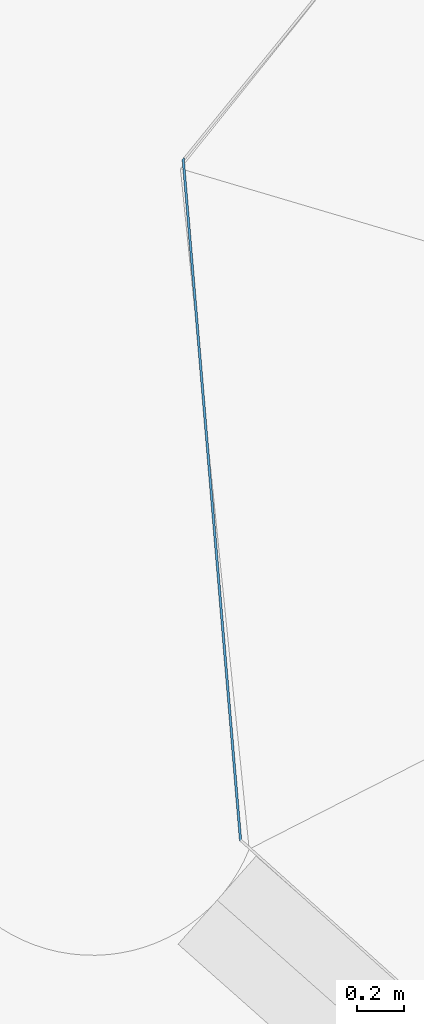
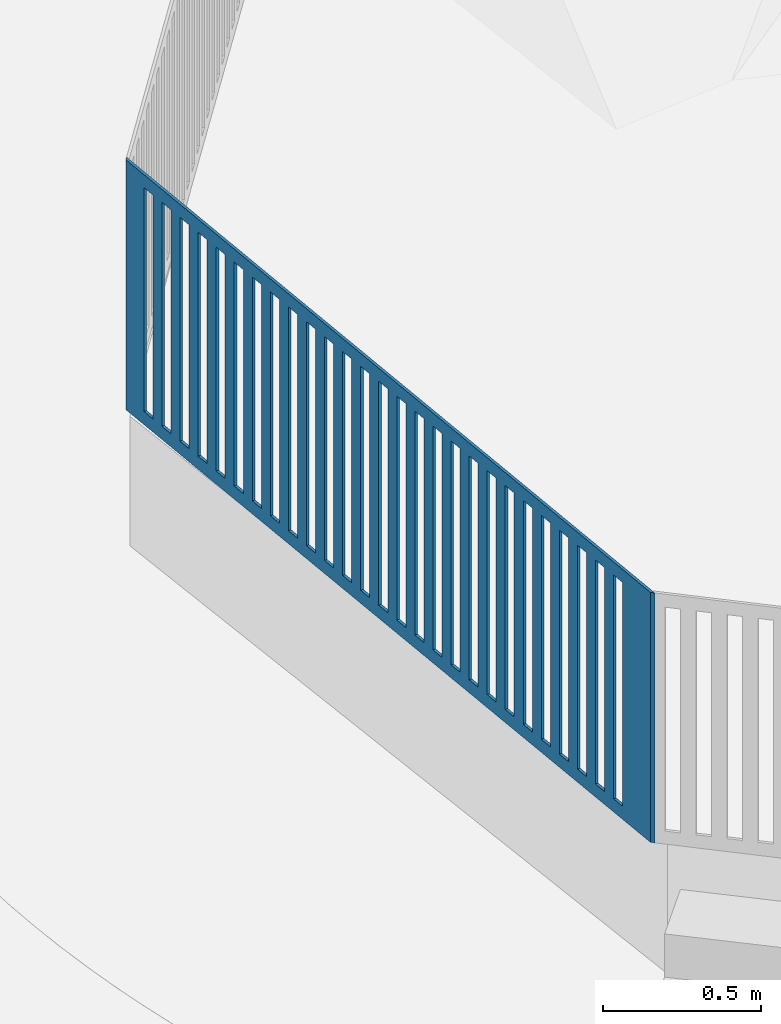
# One storey, part 28 of 75: 1 wall, 27 openings.
"""IFC2X3 building model written with IfcOpenShell, lengths in metres."""

from ifc_helpers import new_model, entity, si_unit, converted_unit, derived_unit, direction, frame, frame_2d, origin, place, context, subcontext, project, spatial, polyline, rectangle, outline, extrude, material, layer, layer_set, layer_usage, type_object, element, save


model = new_model("IFC2X3")

# Units and contexts
model_context = context("Model", 3, precision=1e-05, world=origin(), true_north=direction((6.123031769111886e-17, 1.0)))
body_context = subcontext(model_context, "Body", "Model", "MODEL_VIEW")
ifc_project = project(units=[si_unit("LENGTHUNIT", "METRE"), si_unit("AREAUNIT", "SQUARE_METRE"), si_unit("VOLUMEUNIT", "CUBIC_METRE"), converted_unit("PLANEANGLEUNIT", "DEGREE", entity("IfcRatioMeasure", 0.017453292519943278), si_unit("PLANEANGLEUNIT", "RADIAN"), dimensions=[0, 0, 0, 0, 0, 0, 0]), si_unit("MASSUNIT", "GRAM", prefix="KILO"), derived_unit("MASSDENSITYUNIT", [(si_unit("MASSUNIT", "GRAM", prefix="KILO"), 1), (si_unit("LENGTHUNIT", "METRE"), -3)]), derived_unit("IONCONCENTRATIONUNIT", [(si_unit("MASSUNIT", "GRAM", prefix="KILO"), 1), (si_unit("LENGTHUNIT", "METRE"), -3)]), derived_unit("MOMENTOFINERTIAUNIT", [(si_unit("LENGTHUNIT", "METRE"), 4)]), si_unit("TIMEUNIT", "SECOND"), si_unit("FREQUENCYUNIT", "HERTZ"), si_unit("THERMODYNAMICTEMPERATUREUNIT", "DEGREE_CELSIUS"), derived_unit("THERMALTRANSMITTANCEUNIT", [(si_unit("MASSUNIT", "GRAM", prefix="KILO"), 1), (si_unit("THERMODYNAMICTEMPERATUREUNIT", "KELVIN"), -1), (si_unit("TIMEUNIT", "SECOND"), -3)]), derived_unit("THERMALCONDUCTANCEUNIT", [(si_unit("MASSUNIT", "GRAM", prefix="KILO"), 1), (si_unit("THERMODYNAMICTEMPERATUREUNIT", "KELVIN"), -1), (si_unit("TIMEUNIT", "SECOND"), -3), (si_unit("LENGTHUNIT", "METRE"), 1)]), derived_unit("VOLUMETRICFLOWRATEUNIT", [(si_unit("LENGTHUNIT", "METRE"), 3), (si_unit("TIMEUNIT", "SECOND"), -1)]), derived_unit("MASSFLOWRATEUNIT", [(si_unit("MASSUNIT", "GRAM", prefix="KILO"), 1), (si_unit("TIMEUNIT", "SECOND"), -1)]), derived_unit("ROTATIONALFREQUENCYUNIT", [(si_unit("TIMEUNIT", "SECOND"), -1)]), si_unit("ELECTRICCURRENTUNIT", "AMPERE"), si_unit("ELECTRICVOLTAGEUNIT", "VOLT"), si_unit("POWERUNIT", "WATT"), si_unit("FORCEUNIT", "NEWTON", prefix="KILO"), si_unit("ILLUMINANCEUNIT", "LUX"), si_unit("LUMINOUSFLUXUNIT", "LUMEN"), si_unit("LUMINOUSINTENSITYUNIT", "CANDELA"), derived_unit("USERDEFINED", [(si_unit("MASSUNIT", "GRAM", prefix="KILO"), -1), (si_unit("LENGTHUNIT", "METRE"), -2), (si_unit("TIMEUNIT", "SECOND"), 3), (si_unit("LUMINOUSFLUXUNIT", "LUMEN"), 1)]), derived_unit("USERDEFINED", [(si_unit("MASSUNIT", "GRAM", prefix="KILO"), 1), (si_unit("TIMEUNIT", "SECOND"), -3), (si_unit("LENGTHUNIT", "METRE"), 3), (si_unit("ELECTRICCURRENTUNIT", "AMPERE"), -2)]), derived_unit("SOUNDPOWERUNIT", [(si_unit("MASSUNIT", "GRAM", prefix="KILO"), 1), (si_unit("TIMEUNIT", "SECOND"), -3), (si_unit("LENGTHUNIT", "METRE"), 2)]), derived_unit("SOUNDPRESSUREUNIT", [(si_unit("MASSUNIT", "GRAM", prefix="KILO"), 1), (si_unit("LENGTHUNIT", "METRE"), -1), (si_unit("TIMEUNIT", "SECOND"), -2)]), derived_unit("LINEARVELOCITYUNIT", [(si_unit("LENGTHUNIT", "METRE"), 1), (si_unit("TIMEUNIT", "SECOND"), -1)]), si_unit("PRESSUREUNIT", "PASCAL"), derived_unit("USERDEFINED", [(si_unit("MASSUNIT", "GRAM", prefix="KILO"), 1), (si_unit("LENGTHUNIT", "METRE"), -2), (si_unit("TIMEUNIT", "SECOND"), -2)]), derived_unit("LINEARFORCEUNIT", [(si_unit("MASSUNIT", "GRAM", prefix="KILO"), 1), (si_unit("TIMEUNIT", "SECOND"), -2)]), derived_unit("PLANARFORCEUNIT", [(si_unit("MASSUNIT", "GRAM", prefix="KILO"), 1), (si_unit("LENGTHUNIT", "METRE"), -1), (si_unit("TIMEUNIT", "SECOND"), -2)]), derived_unit("SPECIFICHEATCAPACITYUNIT", [(si_unit("THERMODYNAMICTEMPERATUREUNIT", "KELVIN"), -1), (si_unit("LENGTHUNIT", "METRE"), 2), (si_unit("TIMEUNIT", "SECOND"), -2)]), derived_unit("HEATINGVALUEUNIT", [(si_unit("LENGTHUNIT", "METRE"), 2), (si_unit("TIMEUNIT", "SECOND"), -2)]), derived_unit("VAPORPERMEABILITYUNIT", [(si_unit("LENGTHUNIT", "METRE"), -1), (si_unit("TIMEUNIT", "SECOND"), 1)]), derived_unit("DYNAMICVISCOSITYUNIT", [(si_unit("MASSUNIT", "GRAM", prefix="KILO"), 1), (si_unit("TIMEUNIT", "SECOND"), -1), (si_unit("LENGTHUNIT", "METRE"), -1)]), derived_unit("THERMALEXPANSIONCOEFFICIENTUNIT", [(si_unit("THERMODYNAMICTEMPERATUREUNIT", "KELVIN"), -1)]), derived_unit("MODULUSOFELASTICITYUNIT", [(si_unit("MASSUNIT", "GRAM", prefix="KILO"), 1), (si_unit("LENGTHUNIT", "METRE"), -1), (si_unit("TIMEUNIT", "SECOND"), -2)]), derived_unit("ISOTHERMALMOISTURECAPACITYUNIT", [(si_unit("LENGTHUNIT", "METRE"), 3), (si_unit("MASSUNIT", "GRAM", prefix="KILO"), -1)]), derived_unit("MOISTUREDIFFUSIVITYUNIT", [(si_unit("TIMEUNIT", "SECOND"), -1), (si_unit("LENGTHUNIT", "METRE"), 2)])], contexts=[model_context])

# Site, building, storey
site_placement = place(None, origin())
site = spatial("IfcSite", under=ifc_project, at=site_placement, Name="Default", CompositionType="ELEMENT")
building_placement = place(site_placement, origin())
building = spatial("IfcBuilding", under=site, at=building_placement, Name="Projeto", CompositionType="ELEMENT")
storey_placement = place(building_placement, origin())
storey = spatial("IfcBuildingStorey", under=building, at=storey_placement, Name="Nível 1", CompositionType="ELEMENT", Elevation=0.0)

# Wall, openings
ifc_material = material(Name=".ARQ.PIS - CONTRAPISO.ARMADO")
ifc_layer = layer(ifc_material, 0.01)
ifc_layer_set = layer_set([ifc_layer], Name="Parede básica:15cm 2")
ifc_layer_usage = layer_usage(ifc_layer_set, "AXIS2", "POSITIVE", -0.005000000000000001)
wall_type = type_object("IfcWallType", Name="Parede básica:15cm 2", PredefinedType="STANDARD", material=ifc_layer_set)
wall_placement = place(storey_placement, frame((16.577661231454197, 32.810163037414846, -2.1), z_axis=(0.0, 0.0, 1.0), x_axis=(0.08392934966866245, -0.9964717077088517, 0.0)))
wall = element("IfcWallStandardCase", 1, at=wall_placement, inside=storey, type_object=wall_type, material=ifc_layer_usage, Name="Parede básica:15cm 2", ObjectType="Parede básica:15cm 2", context=body_context, shape_type="SweptSolid", body=[
    extrude(outline(polyline([(1.26345860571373, -1.1985897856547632), (1.2780415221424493, -1.1985897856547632), (-0.8404065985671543, 0.7972706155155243), (-0.850891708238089, 0.8071489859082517), (-0.8502018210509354, 0.7927599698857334), (1.26345860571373, -1.1985897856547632)])), frame((1.1728129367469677, 0.0010000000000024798, 0.0), z_axis=(0.0, 0.0, 1.0), x_axis=(0.7278523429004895, 0.6857338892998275, 0.0)), (0.0, 0.0, 1.0), 0.9640099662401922),
])
opening_1_placement = place(storey_placement, frame((16.577661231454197, 32.810163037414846, -2.1), z_axis=(0.0, 0.0, 1.0), x_axis=(0.08392934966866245, -0.9964717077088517, 0.0)))
element("IfcOpeningElement", 2, at=opening_1_placement, cuts=wall, Name="Parede básica:15cm 2:1", ObjectType="Opening", context=body_context, shape_type="SweptSolid", body=[
    extrude(rectangle(XDim=0.8640099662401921, YDim=0.049999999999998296, at=frame_2d((1.3877787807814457e-16, -2.159730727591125e-15), x_axis=(1.0, 0.0))), frame((0.13536917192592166, -0.004999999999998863, 0.4820049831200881), z_axis=(0.0, 1.0, 0.0), x_axis=(0.0, 0.0, -1.0)), (0.0, 0.0, 1.0), 0.00999999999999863),
])
opening_2_placement = place(storey_placement, frame((16.577661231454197, 32.810163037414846, -2.1), z_axis=(0.0, 0.0, 1.0), x_axis=(0.08392934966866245, -0.9964717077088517, 0.0)))
element("IfcOpeningElement", 3, at=opening_2_placement, cuts=wall, Name="Parede básica:15cm 2:2", ObjectType="Opening", context=body_context, shape_type="SweptSolid", body=[
    extrude(rectangle(XDim=0.8640099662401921, YDim=0.049999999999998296, at=frame_2d((-1.3877787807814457e-16, 2.159730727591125e-15), x_axis=(1.0, 0.0))), frame((0.2353691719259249, -0.004999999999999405, 0.4820049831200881), z_axis=(0.0, 1.0, 0.0), x_axis=(0.0, 0.0, -1.0)), (0.0, 0.0, 1.0), 0.00999999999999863),
])
opening_3_placement = place(storey_placement, frame((16.577661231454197, 32.810163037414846, -2.1), z_axis=(0.0, 0.0, 1.0), x_axis=(0.08392934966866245, -0.9964717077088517, 0.0)))
element("IfcOpeningElement", 4, at=opening_3_placement, cuts=wall, Name="Parede básica:15cm 2:3", ObjectType="Opening", context=body_context, shape_type="SweptSolid", body=[
    extrude(rectangle(XDim=0.8640099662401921, YDim=0.049999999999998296, at=frame_2d((1.3877787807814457e-16, -2.159730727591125e-15), x_axis=(1.0, 0.0))), frame((0.33536917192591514, -0.004999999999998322, 0.48200498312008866), z_axis=(0.0, 1.0, 0.0), x_axis=(0.0, 0.0, -1.0)), (0.0, 0.0, 1.0), 0.00999999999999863),
])
opening_4_placement = place(storey_placement, frame((16.577661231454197, 32.810163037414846, -2.1), z_axis=(0.0, 0.0, 1.0), x_axis=(0.08392934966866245, -0.9964717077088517, 0.0)))
element("IfcOpeningElement", 5, at=opening_4_placement, cuts=wall, Name="Parede básica:15cm 2:4", ObjectType="Opening", context=body_context, shape_type="SweptSolid", body=[
    extrude(rectangle(XDim=0.8640099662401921, YDim=0.049999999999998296, at=frame_2d((-1.3877787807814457e-16, -2.159730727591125e-15), x_axis=(1.0, 0.0))), frame((0.43536917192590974, -0.0050000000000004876, 0.48200498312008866), z_axis=(0.0, 1.0, 0.0), x_axis=(0.0, 0.0, -1.0)), (0.0, 0.0, 1.0), 0.00999999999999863),
])
opening_5_placement = place(storey_placement, frame((16.577661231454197, 32.810163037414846, -2.1), z_axis=(0.0, 0.0, 1.0), x_axis=(0.08392934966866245, -0.9964717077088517, 0.0)))
element("IfcOpeningElement", 6, at=opening_5_placement, cuts=wall, Name="Parede básica:15cm 2:5", ObjectType="Opening", context=body_context, shape_type="SweptSolid", body=[
    extrude(rectangle(XDim=0.8640099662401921, YDim=0.049999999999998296, at=frame_2d((1.3877787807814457e-16, -2.159730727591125e-15), x_axis=(1.0, 0.0))), frame((0.5353691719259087, -0.004999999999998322, 0.48200498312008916), z_axis=(0.0, 1.0, 0.0), x_axis=(0.0, 0.0, -1.0)), (0.0, 0.0, 1.0), 0.00999999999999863),
])
opening_6_placement = place(storey_placement, frame((16.577661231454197, 32.810163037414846, -2.1), z_axis=(0.0, 0.0, 1.0), x_axis=(0.08392934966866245, -0.9964717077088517, 0.0)))
element("IfcOpeningElement", 7, at=opening_6_placement, cuts=wall, Name="Parede básica:15cm 2:6", ObjectType="Opening", context=body_context, shape_type="SweptSolid", body=[
    extrude(rectangle(XDim=0.8640099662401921, YDim=0.049999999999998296, at=frame_2d((-1.3877787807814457e-16, 2.159730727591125e-15), x_axis=(1.0, 0.0))), frame((0.6353691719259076, -0.004999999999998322, 0.48200498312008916), z_axis=(0.0, 1.0, 0.0), x_axis=(0.0, 0.0, -1.0)), (0.0, 0.0, 1.0), 0.00999999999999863),
])
opening_7_placement = place(storey_placement, frame((16.577661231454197, 32.810163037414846, -2.1), z_axis=(0.0, 0.0, 1.0), x_axis=(0.08392934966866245, -0.9964717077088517, 0.0)))
element("IfcOpeningElement", 8, at=opening_7_placement, cuts=wall, Name="Parede básica:15cm 2:7", ObjectType="Opening", context=body_context, shape_type="SweptSolid", body=[
    extrude(rectangle(XDim=0.8640099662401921, YDim=0.049999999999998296, at=frame_2d((-1.3877787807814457e-16, -2.159730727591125e-15), x_axis=(1.0, 0.0))), frame((0.7353691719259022, -0.0049999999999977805, 0.48200498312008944), z_axis=(0.0, 1.0, 0.0), x_axis=(0.0, 0.0, -1.0)), (0.0, 0.0, 1.0), 0.00999999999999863),
])
opening_8_placement = place(storey_placement, frame((16.577661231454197, 32.810163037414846, -2.1), z_axis=(0.0, 0.0, 1.0), x_axis=(0.08392934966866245, -0.9964717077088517, 0.0)))
element("IfcOpeningElement", 9, at=opening_8_placement, cuts=wall, Name="Parede básica:15cm 2:8", ObjectType="Opening", context=body_context, shape_type="SweptSolid", body=[
    extrude(rectangle(XDim=0.8640099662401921, YDim=0.049999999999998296, at=frame_2d((-1.3877787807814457e-16, -2.159730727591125e-15), x_axis=(1.0, 0.0))), frame((0.8353691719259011, -0.004999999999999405, 0.4820049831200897), z_axis=(0.0, 1.0, 0.0), x_axis=(0.0, 0.0, -1.0)), (0.0, 0.0, 1.0), 0.00999999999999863),
])
opening_9_placement = place(storey_placement, frame((16.577661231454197, 32.810163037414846, -2.1), z_axis=(0.0, 0.0, 1.0), x_axis=(0.08392934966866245, -0.9964717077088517, 0.0)))
element("IfcOpeningElement", 10, at=opening_9_placement, cuts=wall, Name="Parede básica:15cm 2:9", ObjectType="Opening", context=body_context, shape_type="SweptSolid", body=[
    extrude(rectangle(XDim=0.8640099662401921, YDim=0.049999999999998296, at=frame_2d((1.3877787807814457e-16, -2.159730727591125e-15), x_axis=(1.0, 0.0))), frame((0.9353691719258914, -0.004999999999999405, 0.48200498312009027), z_axis=(0.0, 1.0, 0.0), x_axis=(0.0, 0.0, -1.0)), (0.0, 0.0, 1.0), 0.00999999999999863),
])
opening_10_placement = place(storey_placement, frame((16.577661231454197, 32.810163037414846, -2.1), z_axis=(0.0, 0.0, 1.0), x_axis=(0.08392934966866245, -0.9964717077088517, 0.0)))
element("IfcOpeningElement", 11, at=opening_10_placement, cuts=wall, Name="Parede básica:15cm 2:10", ObjectType="Opening", context=body_context, shape_type="SweptSolid", body=[
    extrude(rectangle(XDim=0.8640099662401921, YDim=0.049999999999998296, at=frame_2d((-1.3877787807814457e-16, 2.159730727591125e-15), x_axis=(1.0, 0.0))), frame((1.0353691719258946, -0.0049999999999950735, 0.4820049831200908), z_axis=(0.0, 1.0, 0.0), x_axis=(0.0, 0.0, -1.0)), (0.0, 0.0, 1.0), 0.00999999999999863),
])
opening_11_placement = place(storey_placement, frame((16.577661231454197, 32.810163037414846, -2.1), z_axis=(0.0, 0.0, 1.0), x_axis=(0.08392934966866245, -0.9964717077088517, 0.0)))
element("IfcOpeningElement", 12, at=opening_11_placement, cuts=wall, Name="Parede básica:15cm 2:11", ObjectType="Opening", context=body_context, shape_type="SweptSolid", body=[
    extrude(rectangle(XDim=0.8640099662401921, YDim=0.049999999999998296, at=frame_2d((1.3877787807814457e-16, -2.159730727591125e-15), x_axis=(1.0, 0.0))), frame((1.1353691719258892, -0.005000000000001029, 0.4820049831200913), z_axis=(0.0, 1.0, 0.0), x_axis=(0.0, 0.0, -1.0)), (0.0, 0.0, 1.0), 0.00999999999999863),
])
opening_12_placement = place(storey_placement, frame((16.577661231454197, 32.810163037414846, -2.1), z_axis=(0.0, 0.0, 1.0), x_axis=(0.08392934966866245, -0.9964717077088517, 0.0)))
element("IfcOpeningElement", 13, at=opening_12_placement, cuts=wall, Name="Parede básica:15cm 2:12", ObjectType="Opening", context=body_context, shape_type="SweptSolid", body=[
    extrude(rectangle(XDim=0.8640099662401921, YDim=0.049999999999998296, at=frame_2d((-1.3877787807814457e-16, -2.159730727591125e-15), x_axis=(1.0, 0.0))), frame((1.235369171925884, -0.004999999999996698, 0.4820049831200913), z_axis=(0.0, 1.0, 0.0), x_axis=(0.0, 0.0, -1.0)), (0.0, 0.0, 1.0), 0.00999999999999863),
])
opening_13_placement = place(storey_placement, frame((16.577661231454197, 32.810163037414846, -2.1), z_axis=(0.0, 0.0, 1.0), x_axis=(0.08392934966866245, -0.9964717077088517, 0.0)))
element("IfcOpeningElement", 14, at=opening_13_placement, cuts=wall, Name="Parede básica:15cm 2:13", ObjectType="Opening", context=body_context, shape_type="SweptSolid", body=[
    extrude(rectangle(XDim=0.8640099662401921, YDim=0.049999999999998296, at=frame_2d((-1.3877787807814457e-16, -2.159730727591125e-15), x_axis=(1.0, 0.0))), frame((1.3353691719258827, -0.0050000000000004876, 0.4820049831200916), z_axis=(0.0, 1.0, 0.0), x_axis=(0.0, 0.0, -1.0)), (0.0, 0.0, 1.0), 0.00999999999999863),
])
opening_14_placement = place(storey_placement, frame((16.577661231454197, 32.810163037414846, -2.1), z_axis=(0.0, 0.0, 1.0), x_axis=(0.08392934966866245, -0.9964717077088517, 0.0)))
element("IfcOpeningElement", 15, at=opening_14_placement, cuts=wall, Name="Parede básica:15cm 2:14", ObjectType="Opening", context=body_context, shape_type="SweptSolid", body=[
    extrude(rectangle(XDim=0.8640099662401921, YDim=0.049999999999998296, at=frame_2d((-1.3877787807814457e-16, 2.159730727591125e-15), x_axis=(1.0, 0.0))), frame((1.4353691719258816, -0.004999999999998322, 0.4820049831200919), z_axis=(0.0, 1.0, 0.0), x_axis=(0.0, 0.0, -1.0)), (0.0, 0.0, 1.0), 0.00999999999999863),
])
opening_15_placement = place(storey_placement, frame((16.577661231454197, 32.810163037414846, -2.1), z_axis=(0.0, 0.0, 1.0), x_axis=(0.08392934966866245, -0.9964717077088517, 0.0)))
element("IfcOpeningElement", 16, at=opening_15_placement, cuts=wall, Name="Parede básica:15cm 2:15", ObjectType="Opening", context=body_context, shape_type="SweptSolid", body=[
    extrude(rectangle(XDim=0.8640099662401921, YDim=0.049999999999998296, at=frame_2d((1.3877787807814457e-16, -2.159730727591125e-15), x_axis=(1.0, 0.0))), frame((1.535369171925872, -0.0049999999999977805, 0.48200498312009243), z_axis=(0.0, 1.0, 0.0), x_axis=(0.0, 0.0, -1.0)), (0.0, 0.0, 1.0), 0.00999999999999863),
])
opening_16_placement = place(storey_placement, frame((16.577661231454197, 32.810163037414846, -2.1), z_axis=(0.0, 0.0, 1.0), x_axis=(0.08392934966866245, -0.9964717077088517, 0.0)))
element("IfcOpeningElement", 17, at=opening_16_placement, cuts=wall, Name="Parede básica:15cm 2:16", ObjectType="Opening", context=body_context, shape_type="SweptSolid", body=[
    extrude(rectangle(XDim=0.8640099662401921, YDim=0.049999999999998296, at=frame_2d((-1.3877787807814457e-16, -2.159730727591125e-15), x_axis=(1.0, 0.0))), frame((1.635369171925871, -0.0049999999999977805, 0.48200498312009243), z_axis=(0.0, 1.0, 0.0), x_axis=(0.0, 0.0, -1.0)), (0.0, 0.0, 1.0), 0.00999999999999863),
])
opening_17_placement = place(storey_placement, frame((16.577661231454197, 32.810163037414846, -2.1), z_axis=(0.0, 0.0, 1.0), x_axis=(0.08392934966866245, -0.9964717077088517, 0.0)))
element("IfcOpeningElement", 18, at=opening_17_placement, cuts=wall, Name="Parede básica:15cm 2:17", ObjectType="Opening", context=body_context, shape_type="SweptSolid", body=[
    extrude(rectangle(XDim=0.8640099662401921, YDim=0.049999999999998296, at=frame_2d((1.3877787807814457e-16, -2.159730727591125e-15), x_axis=(1.0, 0.0))), frame((1.7353691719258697, -0.004999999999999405, 0.482004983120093), z_axis=(0.0, 1.0, 0.0), x_axis=(0.0, 0.0, -1.0)), (0.0, 0.0, 1.0), 0.00999999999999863),
])
opening_18_placement = place(storey_placement, frame((16.577661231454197, 32.810163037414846, -2.1), z_axis=(0.0, 0.0, 1.0), x_axis=(0.08392934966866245, -0.9964717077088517, 0.0)))
element("IfcOpeningElement", 19, at=opening_18_placement, cuts=wall, Name="Parede básica:15cm 2:18", ObjectType="Opening", context=body_context, shape_type="SweptSolid", body=[
    extrude(rectangle(XDim=0.8640099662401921, YDim=0.049999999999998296, at=frame_2d((-1.3877787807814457e-16, 2.159730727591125e-15), x_axis=(1.0, 0.0))), frame((1.8353691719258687, -0.004999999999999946, 0.482004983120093), z_axis=(0.0, 1.0, 0.0), x_axis=(0.0, 0.0, -1.0)), (0.0, 0.0, 1.0), 0.00999999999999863),
])
opening_19_placement = place(storey_placement, frame((16.577661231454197, 32.810163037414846, -2.1), z_axis=(0.0, 0.0, 1.0), x_axis=(0.08392934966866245, -0.9964717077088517, 0.0)))
element("IfcOpeningElement", 20, at=opening_19_placement, cuts=wall, Name="Parede básica:15cm 2:19", ObjectType="Opening", context=body_context, shape_type="SweptSolid", body=[
    extrude(rectangle(XDim=0.8640099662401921, YDim=0.04999999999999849, at=frame_2d((-1.3877787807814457e-16, -2.2516710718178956e-15), x_axis=(1.0, 0.0))), frame((1.935369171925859, -0.004999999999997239, 0.48200498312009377), z_axis=(0.0, 1.0, 0.0), x_axis=(0.0, 0.0, -1.0)), (0.0, 0.0, 1.0), 0.00999999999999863),
])
opening_20_placement = place(storey_placement, frame((16.577661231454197, 32.810163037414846, -2.1), z_axis=(0.0, 0.0, 1.0), x_axis=(0.08392934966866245, -0.9964717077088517, 0.0)))
element("IfcOpeningElement", 21, at=opening_20_placement, cuts=wall, Name="Parede básica:15cm 2:20", ObjectType="Opening", context=body_context, shape_type="SweptSolid", body=[
    extrude(rectangle(XDim=0.8640099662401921, YDim=0.049999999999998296, at=frame_2d((-1.3877787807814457e-16, -2.159730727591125e-15), x_axis=(1.0, 0.0))), frame((2.0353691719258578, -0.004999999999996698, 0.48200498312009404), z_axis=(0.0, 1.0, 0.0), x_axis=(0.0, 0.0, -1.0)), (0.0, 0.0, 1.0), 0.00999999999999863),
])
opening_21_placement = place(storey_placement, frame((16.577661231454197, 32.810163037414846, -2.1), z_axis=(0.0, 0.0, 1.0), x_axis=(0.08392934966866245, -0.9964717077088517, 0.0)))
element("IfcOpeningElement", 22, at=opening_21_placement, cuts=wall, Name="Parede básica:15cm 2:21", ObjectType="Opening", context=body_context, shape_type="SweptSolid", body=[
    extrude(rectangle(XDim=0.8640099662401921, YDim=0.049999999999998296, at=frame_2d((1.3877787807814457e-16, -2.159730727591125e-15), x_axis=(1.0, 0.0))), frame((2.1353691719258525, -0.004999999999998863, 0.4820049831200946), z_axis=(0.0, 1.0, 0.0), x_axis=(0.0, 0.0, -1.0)), (0.0, 0.0, 1.0), 0.00999999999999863),
])
opening_22_placement = place(storey_placement, frame((16.577661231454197, 32.810163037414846, -2.1), z_axis=(0.0, 0.0, 1.0), x_axis=(0.08392934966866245, -0.9964717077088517, 0.0)))
element("IfcOpeningElement", 23, at=opening_22_placement, cuts=wall, Name="Parede básica:15cm 2:22", ObjectType="Opening", context=body_context, shape_type="SweptSolid", body=[
    extrude(rectangle(XDim=0.8640099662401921, YDim=0.049999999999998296, at=frame_2d((-1.3877787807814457e-16, 2.159730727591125e-15), x_axis=(1.0, 0.0))), frame((2.2353691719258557, -0.004999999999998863, 0.4820049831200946), z_axis=(0.0, 1.0, 0.0), x_axis=(0.0, 0.0, -1.0)), (0.0, 0.0, 1.0), 0.00999999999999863),
])
opening_23_placement = place(storey_placement, frame((16.577661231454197, 32.810163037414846, -2.1), z_axis=(0.0, 0.0, 1.0), x_axis=(0.08392934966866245, -0.9964717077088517, 0.0)))
element("IfcOpeningElement", 24, at=opening_23_placement, cuts=wall, Name="Parede básica:15cm 2:23", ObjectType="Opening", context=body_context, shape_type="SweptSolid", body=[
    extrude(rectangle(XDim=0.8640099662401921, YDim=0.049999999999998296, at=frame_2d((1.3877787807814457e-16, -2.159730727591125e-15), x_axis=(1.0, 0.0))), frame((2.3353691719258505, -0.004999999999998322, 0.48200498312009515), z_axis=(0.0, 1.0, 0.0), x_axis=(0.0, 0.0, -1.0)), (0.0, 0.0, 1.0), 0.00999999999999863),
])
opening_24_placement = place(storey_placement, frame((16.577661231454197, 32.810163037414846, -2.1), z_axis=(0.0, 0.0, 1.0), x_axis=(0.08392934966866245, -0.9964717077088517, 0.0)))
element("IfcOpeningElement", 25, at=opening_24_placement, cuts=wall, Name="Parede básica:15cm 2:24", ObjectType="Opening", context=body_context, shape_type="SweptSolid", body=[
    extrude(rectangle(XDim=0.8640099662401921, YDim=0.04999999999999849, at=frame_2d((-1.3877787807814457e-16, -2.2516710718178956e-15), x_axis=(1.0, 0.0))), frame((2.435369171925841, -0.0049999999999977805, 0.48200498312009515), z_axis=(0.0, 1.0, 0.0), x_axis=(0.0, 0.0, -1.0)), (0.0, 0.0, 1.0), 0.00999999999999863),
])
opening_25_placement = place(storey_placement, frame((16.577661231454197, 32.810163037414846, -2.1), z_axis=(0.0, 0.0, 1.0), x_axis=(0.08392934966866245, -0.9964717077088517, 0.0)))
element("IfcOpeningElement", 26, at=opening_25_placement, cuts=wall, Name="Parede básica:15cm 2:25", ObjectType="Opening", context=body_context, shape_type="SweptSolid", body=[
    extrude(rectangle(XDim=0.8640099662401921, YDim=0.049999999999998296, at=frame_2d((1.3877787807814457e-16, -2.159730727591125e-15), x_axis=(1.0, 0.0))), frame((2.5353691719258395, -0.0049999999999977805, 0.48200498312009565), z_axis=(0.0, 1.0, 0.0), x_axis=(0.0, 0.0, -1.0)), (0.0, 0.0, 1.0), 0.00999999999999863),
])
opening_26_placement = place(storey_placement, frame((16.577661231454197, 32.810163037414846, -2.1), z_axis=(0.0, 0.0, 1.0), x_axis=(0.08392934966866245, -0.9964717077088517, 0.0)))
element("IfcOpeningElement", 27, at=opening_26_placement, cuts=wall, Name="Parede básica:15cm 2:26", ObjectType="Opening", context=body_context, shape_type="SweptSolid", body=[
    extrude(rectangle(XDim=0.8640099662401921, YDim=0.049999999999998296, at=frame_2d((-1.3877787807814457e-16, 2.159730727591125e-15), x_axis=(1.0, 0.0))), frame((2.6353691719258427, -0.0049999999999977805, 0.48200498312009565), z_axis=(0.0, 1.0, 0.0), x_axis=(0.0, 0.0, -1.0)), (0.0, 0.0, 1.0), 0.00999999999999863),
])
opening_27_placement = place(storey_placement, frame((16.577661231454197, 32.810163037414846, -2.1), z_axis=(0.0, 0.0, 1.0), x_axis=(0.08392934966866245, -0.9964717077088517, 0.0)))
element("IfcOpeningElement", 28, at=opening_27_placement, cuts=wall, Name="Parede básica:15cm 2:27", ObjectType="Opening", context=body_context, shape_type="SweptSolid", body=[
    extrude(rectangle(XDim=0.8640099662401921, YDim=0.049999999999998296, at=frame_2d((-1.3877787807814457e-16, -2.159730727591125e-15), x_axis=(1.0, 0.0))), frame((2.735369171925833, -0.004999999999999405, 0.48200498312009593), z_axis=(0.0, 1.0, 0.0), x_axis=(0.0, 0.0, -1.0)), (0.0, 0.0, 1.0), 0.00999999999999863),
])

save(model, "model.ifc")
